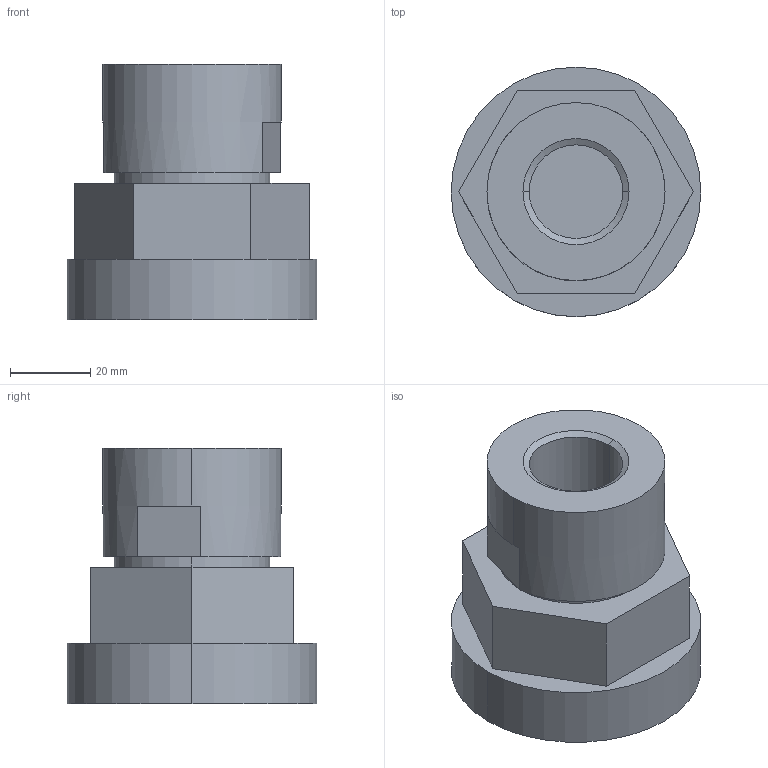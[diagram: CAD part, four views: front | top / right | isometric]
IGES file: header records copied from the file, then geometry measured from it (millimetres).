
Start section: SolidWorks IGES file using analytic representation for surfaces
Global section: file name: S:\Product Visuals\Pumps to be Defeatured\140 fittings\FITTING ASSEMBLIES\DEFEATURED\top-out\12-fnpt-top-out.IGS; native system: SolidWorks 2012; preprocessor: SolidWorks 2012; author: rachel.dressel; date: 121203.154131; units: inch
Bounding box: 62.33 x 62.33 x 63.91 mm (x, y, z)
Volume: 125266.4 mm3; surface area: 18608.6 mm2
Topology: 1 solids, 1 shells, 26 faces, 58 edges, 38 vertices
Faces by surface type: plane 16, revolution 10
